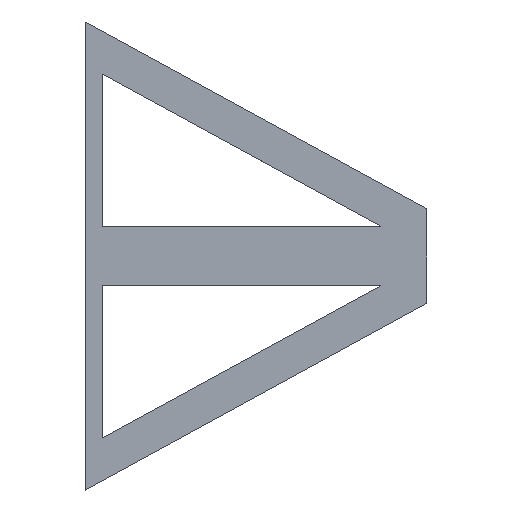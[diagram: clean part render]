
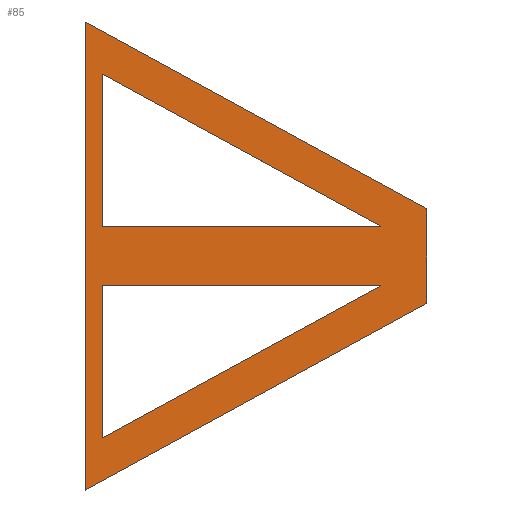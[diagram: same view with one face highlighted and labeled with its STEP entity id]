
A CAD part, top view. The second image highlights one B-rep face of the part: STEP entity #85.
In plain terms, the highlighted planar face has unit normal (0, 0, 1).
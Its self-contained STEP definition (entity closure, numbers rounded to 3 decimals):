
#85=ADVANCED_FACE('',(#191,#193,#195),#197,.T.);
#191=FACE_BOUND('',#192,.T.);
#192=EDGE_LOOP('',(#276,#277,#278,#279));
#193=FACE_BOUND('',#194,.T.);
#194=EDGE_LOOP('',(#280,#281,#282));
#195=FACE_BOUND('',#196,.T.);
#196=EDGE_LOOP('',(#283,#284,#285));
#197=PLANE('',#198);
#198=AXIS2_PLACEMENT_3D('',#199,#200,#201);
#199=CARTESIAN_POINT('',(0.,0.,0.6));
#200=DIRECTION('',(0.,0.,1.));
#201=DIRECTION('',(1.,0.,0.));
#276=ORIENTED_EDGE('',*,*,#334,.T.);
#277=ORIENTED_EDGE('',*,*,#325,.T.);
#278=ORIENTED_EDGE('',*,*,#335,.T.);
#279=ORIENTED_EDGE('',*,*,#319,.T.);
#280=ORIENTED_EDGE('',*,*,#336,.T.);
#281=ORIENTED_EDGE('',*,*,#337,.T.);
#282=ORIENTED_EDGE('',*,*,#338,.T.);
#283=ORIENTED_EDGE('',*,*,#339,.T.);
#284=ORIENTED_EDGE('',*,*,#340,.T.);
#285=ORIENTED_EDGE('',*,*,#341,.T.);
#319=EDGE_CURVE('',#351,#349,#352,.T.);
#325=EDGE_CURVE('',#356,#361,#363,.T.);
#334=EDGE_CURVE('',#349,#356,#378,.F.);
#335=EDGE_CURVE('',#361,#351,#379,.T.);
#336=EDGE_CURVE('',#380,#381,#382,.T.);
#337=EDGE_CURVE('',#381,#383,#384,.T.);
#338=EDGE_CURVE('',#383,#380,#385,.T.);
#339=EDGE_CURVE('',#386,#387,#388,.T.);
#340=EDGE_CURVE('',#387,#389,#390,.T.);
#341=EDGE_CURVE('',#389,#386,#391,.T.);
#349=VERTEX_POINT('',#399);
#351=VERTEX_POINT('',#403);
#352=LINE('',#404,#405);
#356=VERTEX_POINT('',#414);
#361=VERTEX_POINT('',#423);
#363=LINE('',#427,#428);
#378=LINE('',#460,#461);
#379=LINE('',#463,#464);
#380=VERTEX_POINT('',#466);
#381=VERTEX_POINT('',#467);
#382=LINE('',#468,#469);
#383=VERTEX_POINT('',#471);
#384=LINE('',#472,#473);
#385=LINE('',#475,#476);
#386=VERTEX_POINT('',#478);
#387=VERTEX_POINT('',#479);
#388=LINE('',#480,#481);
#389=VERTEX_POINT('',#483);
#390=LINE('',#484,#485);
#391=LINE('',#487,#488);
#399=CARTESIAN_POINT('',(-137.,93.779,0.6));
#403=CARTESIAN_POINT('',(0.,19.,0.6));
#404=CARTESIAN_POINT('',(0.,19.,0.6));
#405=VECTOR('',#406,1.);
#406=DIRECTION('',(-0.878,0.479,0.));
#414=CARTESIAN_POINT('',(-137.,-93.779,0.6));
#423=CARTESIAN_POINT('',(0.,-19.,0.6));
#427=CARTESIAN_POINT('',(-137.,-93.779,0.6));
#428=VECTOR('',#429,1.);
#429=DIRECTION('',(0.878,0.479,0.));
#460=CARTESIAN_POINT('',(-137.,-93.779,0.6));
#461=VECTOR('',#462,1.);
#462=DIRECTION('',(0.,1.,0.));
#463=CARTESIAN_POINT('',(0.,-19.,0.6));
#464=VECTOR('',#465,1.);
#465=DIRECTION('',(0.,1.,0.));
#466=CARTESIAN_POINT('',(-130.076,72.911,0.6));
#467=CARTESIAN_POINT('',(-18.484,12.,0.6));
#468=CARTESIAN_POINT('',(-130.076,72.911,0.6));
#469=VECTOR('',#470,1.);
#470=DIRECTION('',(0.878,-0.479,0.));
#471=CARTESIAN_POINT('',(-130.076,12.,0.6));
#472=CARTESIAN_POINT('',(-18.484,12.,0.6));
#473=VECTOR('',#474,1.);
#474=DIRECTION('',(-1.,0.,0.));
#475=CARTESIAN_POINT('',(-130.076,12.,0.6));
#476=VECTOR('',#477,1.);
#477=DIRECTION('',(0.,1.,0.));
#478=CARTESIAN_POINT('',(-130.076,-12.,0.6));
#479=CARTESIAN_POINT('',(-18.484,-12.,0.6));
#480=CARTESIAN_POINT('',(-130.076,-12.,0.6));
#481=VECTOR('',#482,1.);
#482=DIRECTION('',(1.,0.,0.));
#483=CARTESIAN_POINT('',(-130.076,-72.911,0.6));
#484=CARTESIAN_POINT('',(-18.484,-12.,0.6));
#485=VECTOR('',#486,1.);
#486=DIRECTION('',(-0.878,-0.479,0.));
#487=CARTESIAN_POINT('',(-130.076,-72.911,0.6));
#488=VECTOR('',#489,1.);
#489=DIRECTION('',(0.,1.,0.));
